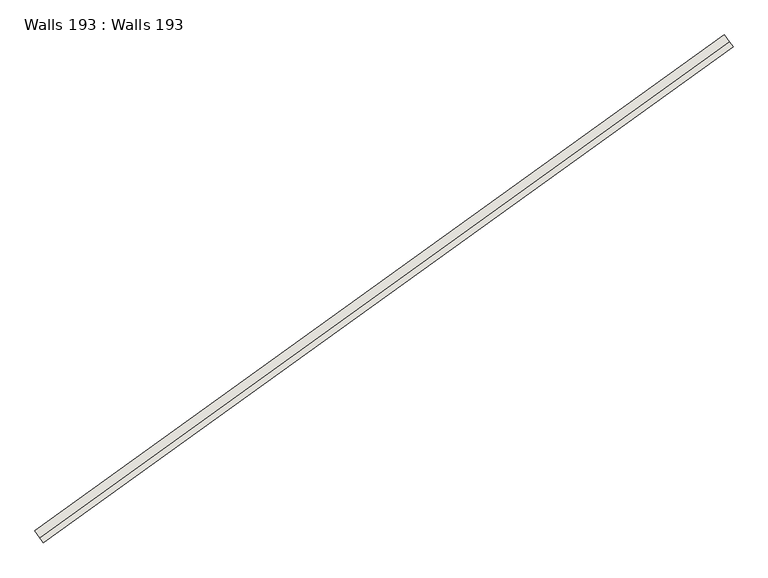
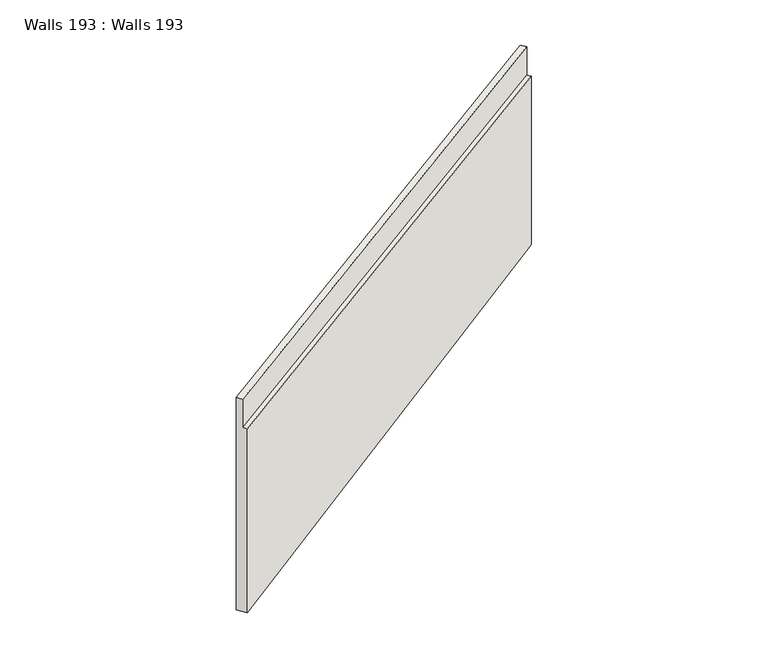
"""IFC4 building model written with IfcOpenShell, lengths in millimetres: wall geometry, Walls 193 : Walls 193."""

from ifc_helpers import new_model, si_unit, frame, origin, place, context, project, spatial, source, transform, mapped, element, save
from ifc_brep_helpers import plane_surface, spline_curve, spline_surface, advanced_brep


def walls_193_walls_193_881fd9c3(model_context):
    return source(origin(), model_context, "Body", "AdvancedBrep", [
        advanced_brep(
        [(325036.3409959, 203387.1764331, 651130.0), (325036.3409959, 203387.1764331, 643620.0), (325232.4811708, 203097.2988179, 643620.0), (325232.4811708, 203097.2988179, 650130.0), (325148.4210958, 203221.5320815, 650130.0), (325148.4210958, 203221.5320815, 651130.0), (341271.6194041, 215062.2272338, 650840.0), (341392.9768059, 214903.2543399, 650840.0), (341392.9768059, 214903.2543399, 649840.0), (341483.9948573, 214784.0246694, 649840.0), (341483.9948573, 214784.0246694, 643870.0), (341271.6194041, 215062.2272338, 643870.0)],
        [
            (0, 1),
            (1, 2),
            (2, 3),
            (3, 4),
            (4, 5),
            (5, 0),
            (6, 7),
            (7, 8),
            (8, 9),
            (9, 10),
            (10, 11),
            (11, 6),
            (11, 1, spline_curve(3, [(341271.6194041, 215062.2272338, 643870.0), (335972.523550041, 211016.980970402, 643786.666667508), (330557.818745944, 207123.179332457, 643703.333332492), (325036.3409959, 203387.1764331, 643620.0)], [4, 4], [0.0, 65.61458425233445])),
            (0, 6, spline_curve(3, [(325036.3409959, 203387.1764331, 651130.0), (330557.818745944, 207123.179332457, 651033.333333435), (335972.523550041, 211016.980970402, 650936.666666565), (341271.6194041, 215062.2272338, 650840.0)], [4, 4], [0.0, 65.61458425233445])),
            (10, 2, spline_curve(3, [(341483.9948573, 214784.0246694, 643870.0), (336179.599907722, 210734.733161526, 643786.666667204), (330759.480397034, 206837.037719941, 643703.333332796), (325232.4811708, 203097.2988179, 643620.0)], [4, 4], [0.0, 65.65248244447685])),
            (8, 4, spline_curve(3, [(341392.9768059, 214903.2543399, 649840.0), (336090.852895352, 210855.696507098, 649936.666666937), (330673.053974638, 206959.669840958, 650033.333333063), (325148.4210958, 203221.5320815, 650130.0)], [4, 4], [0.0, 65.67299815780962])),
            (3, 9, spline_curve(3, [(325232.4811708, 203097.2988179, 650130.0), (330759.48039881, 206837.037720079, 650033.333333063), (336179.599906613, 210734.733161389, 649936.666666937), (341483.9948573, 214784.0246694, 649840.0)], [4, 4], [0.0, 65.67299815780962])),
            (5, 7, spline_curve(3, [(325148.4210958, 203221.5320815, 651130.0), (330673.053974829, 206959.669841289, 651033.333333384), (336090.852895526, 210855.696508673, 650936.666666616), (341392.9768059, 214903.2543399, 650840.0)], [4, 4], [0.0, 65.64019432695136])),
        ],
        [
            plane_surface(frame((325139.0810875, 203235.3357775, 648293.3333333), z_axis=(-0.8282217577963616, -0.5604004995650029, 0.0), x_axis=(0.0, 0.0, -1.0))),
            plane_surface(frame((341382.8636891, 214916.502081, 648183.3333333), z_axis=(0.7948644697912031, 0.6067870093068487, 0.0), x_axis=(0.0, 0.0, -1.0))),
            spline_surface(3, 3, [[(341271.6194041, 215062.2272338, 650840.0), (335972.523549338, 211016.980971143, 650936.666666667), (330557.818745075, 207123.179333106, 651033.333333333), (325036.3409959, 203387.1764331, 651130.0)], [(341271.6194041, 215062.2272338, 648516.666666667), (335972.523549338, 211016.980971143, 648553.333333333), (330557.818745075, 207123.179333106, 648590.0), (325036.3409959, 203387.1764331, 648626.666666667)], [(341271.6194041, 215062.2272338, 646193.333333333), (335972.523549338, 211016.980971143, 646170.0), (330557.818745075, 207123.179333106, 646146.666666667), (325036.3409959, 203387.1764331, 646123.333333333)], [(341271.6194041, 215062.2272338, 643870.0), (335972.523549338, 211016.980971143, 643786.666666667), (330557.818745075, 207123.179333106, 643703.333333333), (325036.3409959, 203387.1764331, 643620.0)]], [4, 4], [4, 4], [0.0, 23.75328083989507], [0.0, 65.61458425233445]),
            spline_surface(3, 3, [[(341271.6194041, 215062.2272338, 643870.0), (335972.523549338, 211016.980971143, 643786.666666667), (330557.818745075, 207123.179333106, 643703.333333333), (325036.3409959, 203387.1764331, 643620.0)], [(341342.411221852, 214969.493045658, 643870.0), (336041.549001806, 210922.89836758, 643786.666666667), (330625.039295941, 207027.798795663, 643703.333333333), (325101.721054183, 203290.550561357, 643620.0)], [(341413.203039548, 214876.758857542, 643870.0), (336110.574454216, 210828.815764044, 643786.666666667), (330692.259846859, 206932.418258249, 643703.333333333), (325167.101112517, 203193.924689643, 643620.0)], [(341483.9948573, 214784.0246694, 643870.0), (336179.599906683, 210734.73316048, 643786.666666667), (330759.480397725, 206837.037720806, 643703.333333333), (325232.4811708, 203097.2988179, 643620.0)]], [4, 4], [4, 4], [0.0, 1.1482939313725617], [0.0, 65.65248244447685]),
            spline_surface(3, 3, [[(341483.9948573, 214784.0246694, 649840.0), (336179.599906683, 210734.73316048, 649936.666666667), (330759.480397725, 206837.037720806, 650033.333333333), (325232.4811708, 203097.2988179, 650130.0)], [(341453.655506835, 214823.76789289, 649840.0), (336150.017569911, 210775.054276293, 649936.666666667), (330730.671590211, 206877.915093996, 650033.333333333), (325204.461145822, 203138.70990579, 650130.0)], [(341423.316156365, 214863.51111641, 649840.0), (336120.435233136, 210815.375392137, 649936.666666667), (330701.862782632, 206918.792467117, 650033.333333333), (325176.441120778, 203180.12099361, 650130.0)], [(341392.9768059, 214903.2543399, 649840.0), (336090.852896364, 210855.69650795, 649936.666666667), (330673.053975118, 206959.669840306, 650033.333333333), (325148.4210958, 203221.5320815, 650130.0)]], [4, 4], [4, 4], [0.0, 0.49212597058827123], [0.0, 65.67299815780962]),
            spline_surface(3, 3, [[(341392.9768059, 214903.2543399, 650840.0), (336090.852896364, 210855.69650795, 650936.666666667), (330673.053975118, 206959.669840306, 651033.333333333), (325148.4210958, 203221.5320815, 651130.0)], [(341352.524338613, 214956.245304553, 650840.0), (336051.409780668, 210909.457995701, 650936.666666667), (330634.642231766, 207014.173004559, 651033.333333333), (325111.061062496, 203276.746865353, 651130.0)], [(341312.071871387, 215009.236269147, 650840.0), (336011.966665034, 210963.219483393, 650936.666666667), (330596.230488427, 207068.676168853, 651033.333333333), (325073.701029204, 203331.961649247, 651130.0)], [(341271.6194041, 215062.2272338, 650840.0), (335972.523549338, 211016.980971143, 650936.666666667), (330557.818745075, 207123.179333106, 651033.333333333), (325036.3409959, 203387.1764331, 651130.0)]], [4, 4], [4, 4], [0.0, 0.6561679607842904], [0.0, 65.64019432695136]),
            spline_surface(3, 3, [[(341483.9948573, 214784.0246694, 643870.0), (336179.599906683, 210734.73316048, 643786.666666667), (330759.480397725, 206837.037720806, 643703.333333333), (325232.4811708, 203097.2988179, 643620.0)], [(341483.9948573, 214784.0246694, 645860.0), (336179.599906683, 210734.73316048, 645836.666666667), (330759.480397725, 206837.037720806, 645813.333333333), (325232.4811708, 203097.2988179, 645790.0)], [(341483.9948573, 214784.0246694, 647850.0), (336179.599906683, 210734.73316048, 647886.666666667), (330759.480397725, 206837.037720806, 647923.333333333), (325232.4811708, 203097.2988179, 647960.0)], [(341483.9948573, 214784.0246694, 649840.0), (336179.599906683, 210734.73316048, 649936.666666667), (330759.480397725, 206837.037720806, 650033.333333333), (325232.4811708, 203097.2988179, 650130.0)]], [4, 4], [4, 4], [0.0, 20.472440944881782], [0.0, 65.68019877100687]),
            spline_surface(3, 3, [[(341392.9768059, 214903.2543399, 649840.0), (336090.852896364, 210855.69650795, 649936.666666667), (330673.053975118, 206959.669840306, 650033.333333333), (325148.4210958, 203221.5320815, 650130.0)], [(341392.9768059, 214903.2543399, 650173.333333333), (336090.852896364, 210855.69650795, 650270.0), (330673.053975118, 206959.669840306, 650366.666666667), (325148.4210958, 203221.5320815, 650463.333333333)], [(341392.9768059, 214903.2543399, 650506.666666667), (336090.852896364, 210855.69650795, 650603.333333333), (330673.053975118, 206959.669840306, 650700.0), (325148.4210958, 203221.5320815, 650796.666666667)], [(341392.9768059, 214903.2543399, 650840.0), (336090.852896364, 210855.69650795, 650936.666666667), (330673.053975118, 206959.669840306, 651033.333333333), (325148.4210958, 203221.5320815, 651130.0)]], [4, 4], [4, 4], [0.0, 3.280839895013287], [0.0, 65.65893937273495]),
        ],
        [
            (0, [[1, 2, 3, 4, 5, 6]]),
            (1, [[7, 8, 9, 10, 11, 12]]),
            (2, [[-12, 13, -1, 14]]),
            (3, [[-11, 15, -2, -13]]),
            (4, [[-9, 16, -4, 17]]),
            (5, [[-7, -14, -6, 18]]),
            (6, [[-10, -17, -3, -15]]),
            (7, [[-8, -18, -5, -16]]),
        ],
    ),
    ])


if __name__ == "__main__":
    model = new_model("IFC4")
    model_context = context("Model", 3, world=origin())
    ifc_project = project(units=[si_unit("LENGTHUNIT", "METRE", prefix="MILLI")], contexts=[model_context])
    site = spatial("IfcSite", under=ifc_project)
    building = spatial("IfcBuilding", under=site)
    placement = place(None, origin())
    walls_193_walls_193_shape = walls_193_walls_193_881fd9c3(model_context)
    element("IfcWall", 1, ObjectType="Walls 193 : Walls 193", at=placement, inside=building, context=model_context, shape_type="MappedRepresentation", body=[
        mapped(walls_193_walls_193_shape, transform((0.0, 0.0, 0.0), x_axis=(1.0, 0.0, 0.0), y_axis=(0.0, 1.0, 0.0), z_axis=(0.0, 0.0, 1.0))),
    ])
    save(model, "model.ifc")
